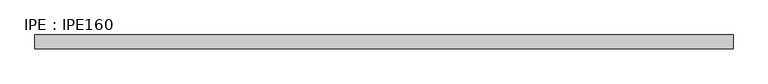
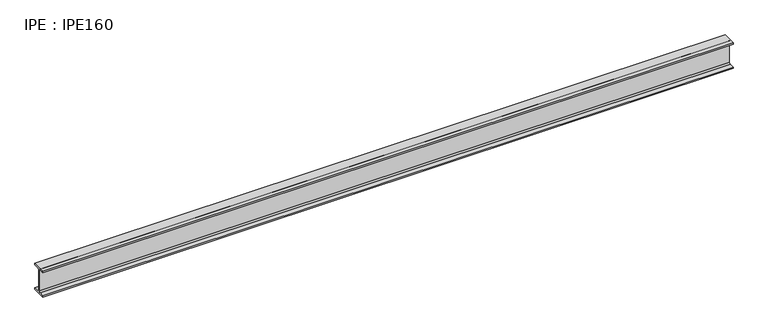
"""IFC4 building model written with IfcOpenShell, lengths in millimetres: beam geometry, IPE : IPE160."""

from ifc_helpers import new_model, si_unit, point, frame, frame_2d, origin, place, context, project, spatial, polyline, circle_curve, trimmed, segment, composite_curve, outline, extrude, source, transform, mapped, element, save


def ipe_ipe160_38dfdfea(model_context):
    return source(origin(), model_context, "Body", "SweptSolid", [
        extrude(outline(composite_curve([segment(polyline([(41.0, -72.6), (41.0, -80.0), (-41.0, -80.0), (-41.0, -72.6), (-11.5, -72.6)]), True, "CONTINUOUS"), segment(trimmed(circle_curve(frame_2d((-11.5, -63.6)), 9.0), [point((-11.5, -72.6))], [point((-2.5, -63.6))], True, "CARTESIAN"), True, "CONTINUOUS"), segment(polyline([(-2.5, -63.6), (-2.5, 63.6)]), True, "CONTINUOUS"), segment(trimmed(circle_curve(frame_2d((-11.5, 63.6)), 9.0), [point((-2.5, 63.6))], [point((-11.5, 72.6))], True, "CARTESIAN"), True, "CONTINUOUS"), segment(polyline([(-11.5, 72.6), (-41.0, 72.6), (-41.0, 80.0), (41.0, 80.0), (41.0, 72.6), (11.5, 72.6)]), True, "CONTINUOUS"), segment(trimmed(circle_curve(frame_2d((11.5, 63.6)), 9.0), [point((11.5, 72.6))], [point((2.5, 63.6))], True, "CARTESIAN"), True, "CONTINUOUS"), segment(polyline([(2.5, 63.6), (2.5, -63.6)]), True, "CONTINUOUS"), segment(trimmed(circle_curve(frame_2d((11.5, -63.6)), 9.0), [point((2.5, -63.6))], [point((11.5, -72.6))], True, "CARTESIAN"), True, "CONTINUOUS"), segment(polyline([(11.5, -72.6), (41.0, -72.6)]), True, "CONTINUOUS")], self_intersect=False)), frame((-2001.55, 0.0, 0.0), z_axis=(1.0, 0.0, 0.0), x_axis=(0.0, 1.0, 0.0)), (0.0, 0.0, 1.0), 4079.6),
    ])


if __name__ == "__main__":
    model = new_model("IFC4")
    model_context = context("Model", 3, world=origin())
    ifc_project = project(units=[si_unit("LENGTHUNIT", "METRE", prefix="MILLI")], contexts=[model_context])
    site = spatial("IfcSite", under=ifc_project)
    building = spatial("IfcBuilding", under=site)
    placement = place(None, origin())
    ipe_ipe160_shape = ipe_ipe160_38dfdfea(model_context)
    element("IfcBeam", 1, ObjectType="IPE : IPE160", at=placement, inside=building, context=model_context, shape_type="MappedRepresentation", body=[
        mapped(ipe_ipe160_shape, transform((0.0, 0.0, 0.0), x_axis=(1.0, 0.0, 0.0), y_axis=(0.0, 1.0, 0.0), z_axis=(0.0, 0.0, 1.0))),
    ])
    save(model, "model.ifc")
